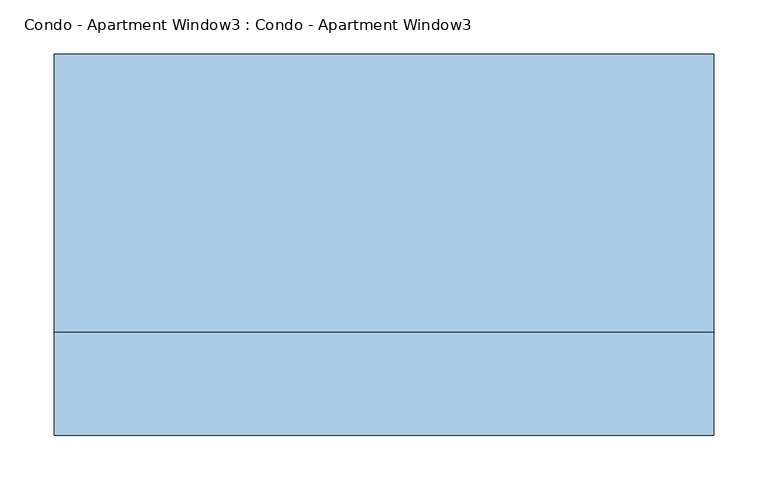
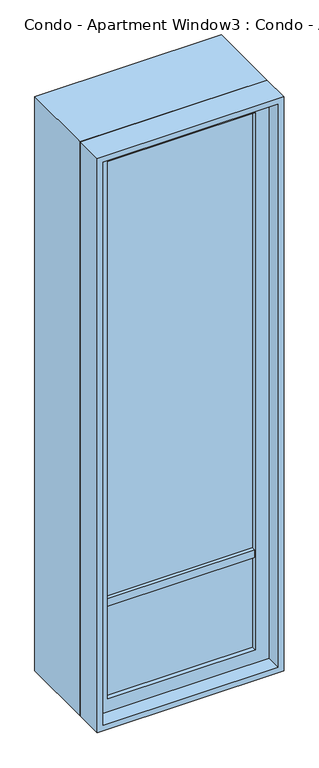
"""IFC4 building model written with IfcOpenShell, lengths in millimetres: window geometry, Condo - Apartment Window3 : Condo - Apartment Window3."""

from ifc_helpers import new_model, si_unit, frame, origin, place, context, project, spatial, polyline, outline, extrude, source, transform, mapped, element, save


def condo_apartment_window3_condo_apartment_window3_e6ba8bfb(model_context):
    return source(origin(), model_context, "Body", "SweptSolid", [
        extrude(outline(polyline([(-279.4, -122.2375), (-279.4, -96.8375), (203.2, -96.8375), (203.2, -122.2375), (-279.4, -122.2375)])), frame((0.0, 0.0, 673.1), z_axis=(0.0, 0.0, 1.0), x_axis=(1.0, 0.0, 0.0)), (0.0, 0.0, 1.0), 25.4),
        extrude(outline(polyline([(203.2, -96.8375), (203.2, -109.5375), (-279.4, -109.5375), (-279.4, -96.8375), (203.2, -96.8375)])), frame((0.0, 0.0, 355.6), z_axis=(0.0, 0.0, 1.0), x_axis=(1.0, 0.0, 0.0)), (0.0, 0.0, 1.0), 1854.2),
        extrude(outline(polyline([(2254.25, -323.85), (311.15, -323.85), (311.15, 247.65), (2254.25, 247.65), (2254.25, -323.85)]), holes=[polyline([(2209.8, -279.4), (2209.8, 203.2), (355.6, 203.2), (355.6, -279.4), (2209.8, -279.4)])]), frame((0.0, -125.4125, 0.0), z_axis=(0.0, 1.0, 0.0), x_axis=(0.0, 0.0, 1.0)), (0.0, 0.0, 1.0), 44.45),
        extrude(outline(polyline([(2273.3, -342.9), (292.1, -342.9), (292.1, 266.7), (2273.3, 266.7), (2273.3, -342.9)]), holes=[polyline([(2241.55, -311.15), (2241.55, 234.95), (323.85, 234.95), (323.85, -311.15), (2241.55, -311.15)])]), frame((0.0, -80.9625, 0.0), z_axis=(0.0, 1.0, 0.0), x_axis=(0.0, 0.0, 1.0)), (0.0, 0.0, 1.0), 257.175),
        extrude(outline(polyline([(2273.3, 266.7), (2273.3, -342.9), (292.1, -342.9), (292.1, 266.7), (2273.3, 266.7)]), holes=[polyline([(2254.25, 247.65), (311.15, 247.65), (311.15, -323.85), (2254.25, -323.85), (2254.25, 247.65)])]), frame((0.0, -176.2125, 0.0), z_axis=(0.0, 1.0, 0.0), x_axis=(0.0, 0.0, 1.0)), (0.0, 0.0, 1.0), 95.25),
    ])


if __name__ == "__main__":
    model = new_model("IFC4")
    model_context = context("Model", 3, world=origin())
    ifc_project = project(units=[si_unit("LENGTHUNIT", "METRE", prefix="MILLI")], contexts=[model_context])
    site = spatial("IfcSite", under=ifc_project)
    building = spatial("IfcBuilding", under=site)
    placement = place(None, origin())
    condo_apartment_window3_condo_apartment_window3_shape = condo_apartment_window3_condo_apartment_window3_e6ba8bfb(model_context)
    element("IfcWindow", 1, ObjectType="Condo - Apartment Window3 : Condo - Apartment Window3", at=placement, inside=building, context=model_context, shape_type="MappedRepresentation", body=[
        mapped(condo_apartment_window3_condo_apartment_window3_shape, transform((0.0, 0.0, 0.0), x_axis=(1.0, 0.0, 0.0), y_axis=(0.0, 1.0, 0.0), z_axis=(0.0, 0.0, 1.0))),
    ])
    save(model, "model.ifc")
